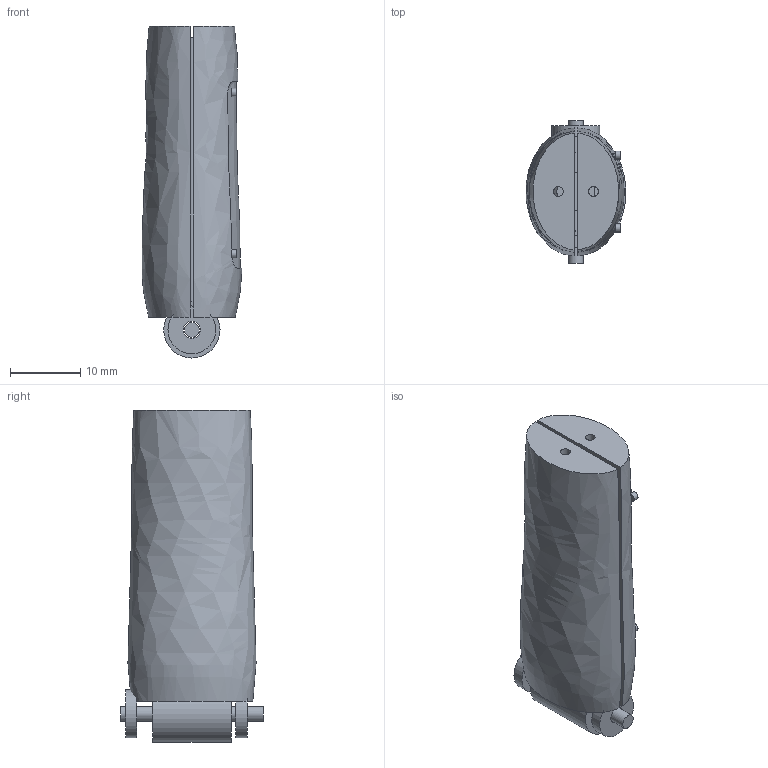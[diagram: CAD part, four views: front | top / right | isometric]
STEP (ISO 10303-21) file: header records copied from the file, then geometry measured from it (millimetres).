
FILE_DESCRIPTION(('FreeCAD Model'),'2;1');
FILE_NAME('Open CASCADE Shape Model','2026-10-05T09:22:56',('Author'),( ''),'Open CASCADE STEP processor 7.8','FreeCAD','Unknown');
FILE_SCHEMA(('AUTOMOTIVE_DESIGN { 1 0 10303 214 1 1 1 1 }'));
Length unit declared in the file: millimetre
Products named in the file (13): Export_middle_proximal; middle_proximalDorsalShell; middle_proximalFlexorShell; middle_proximalInsetPad; middle_proximalCore; middle_proximalHingeBarrel; middle_proximalCheek-1; middle_proximalCheek1; middle_proximalPin; middle_proximalScrew_-1_0.24; middle_proximalScrew_-1_0.75; middle_proximalScrew_1_0.24; middle_proximalScrew_1_0.75
Assembly tree (12 placements, depth 2):
  Export_middle_proximal
    middle_proximalDorsalShell
    middle_proximalFlexorShell
    middle_proximalInsetPad
    middle_proximalCore
    middle_proximalHingeBarrel
    middle_proximalCheek-1
    middle_proximalCheek1
    middle_proximalPin
    middle_proximalScrew_-1_0.24
    middle_proximalScrew_-1_0.75
    middle_proximalScrew_1_0.24
    middle_proximalScrew_1_0.75
Bounding box: 14.19 x 20.2 x 47.2 mm (x, y, z)
Volume: 8721.5 mm3; surface area: 6348.8 mm2
Topology: 12 solids, 12 shells, 83 faces, 150 edges, 90 vertices
Faces by surface type: plane 38, cylinder 34, sphere 8, bspline 3
Full cylindrical faces by diameter (mm): 0.464 x4, 1.16 x4, 1.4 x2, 2.1 x1, 2.4 x3, 5.4 x1, 6.8 x2, 8 x1
Entity records: 3094 total; most frequent: CARTESIAN_POINT 1306, DIRECTION 356, ORIENTED_EDGE 288, AXIS2_PLACEMENT_3D 153, EDGE_CURVE 144, FACE_BOUND 98, EDGE_LOOP 98, VERTEX_POINT 90
